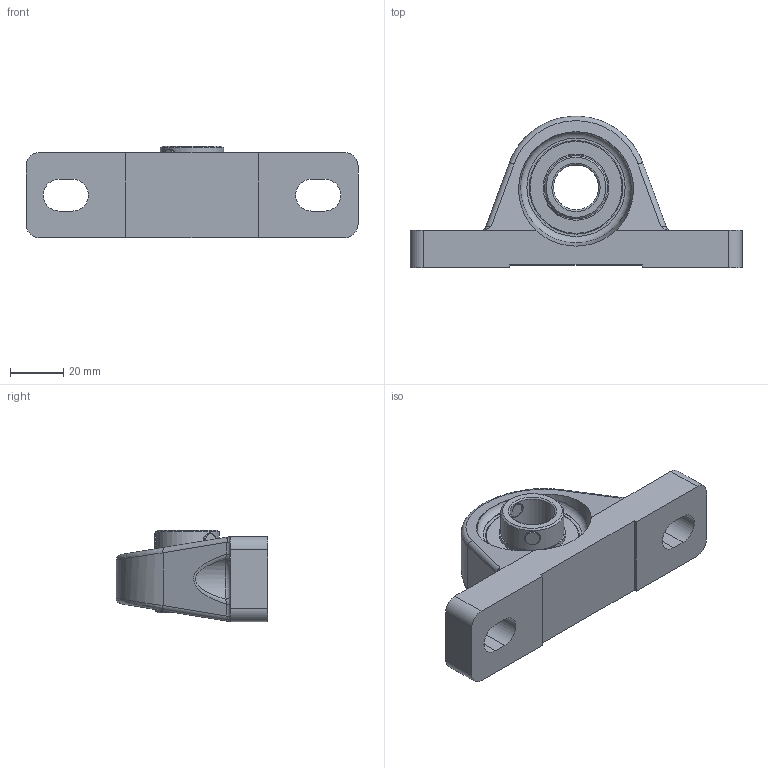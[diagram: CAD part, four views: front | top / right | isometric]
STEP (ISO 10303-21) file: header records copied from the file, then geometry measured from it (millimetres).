
FILE_DESCRIPTION(/* description */ (''),/* implementation_level */ '2;1');
FILE_NAME(/* name */ 'C:\MOJE SUBORY\03_Doplnenie 3D modelov\nove\SGC203.stp',/* time_stamp */ '2023-06-29T08:22:06+02:00',/* author */ ('OUPIONTEKM'),/* organization */ (''),/* preprocessor_version */ 'ST-DEVELOPER v19',/* originating_system */ 'Autodesk Inventor 2023',/* authorisation */ '');
FILE_SCHEMA (('AUTOMOTIVE_DESIGN { 1 0 10303 214 3 1 1 }'));
Length unit declared in the file: millimetre
Products named in the file (3): SGC203; sg203; UC203
Assembly tree (2 placements, depth 2):
  SGC203
    sg203
    UC203
Bounding box: 125 x 56.96 x 34.38 mm (x, y, z)
Volume: 84176.9 mm3; surface area: 34553.4 mm2
Topology: 19 solids, 19 shells, 201 faces, 620 edges, 406 vertices
Faces by surface type: plane 79, cylinder 49, sphere 43, bspline 12, cone 10, torus 8
Full cylindrical faces by diameter (mm): 1.5 x2, 6 x4, 17 x1, 23.777 x6, 24.777 x2, 26.476 x2, 30.524 x2, 33.223 x2, 34.623 x2, 35.223 x4, 40 x1
Entity records: 8887 total; most frequent: CARTESIAN_POINT 3308, DIRECTION 1210, ORIENTED_EDGE 1140, EDGE_CURVE 570, AXIS2_PLACEMENT_3D 548, VERTEX_POINT 406, CIRCLE 334, EDGE_LOOP 230
